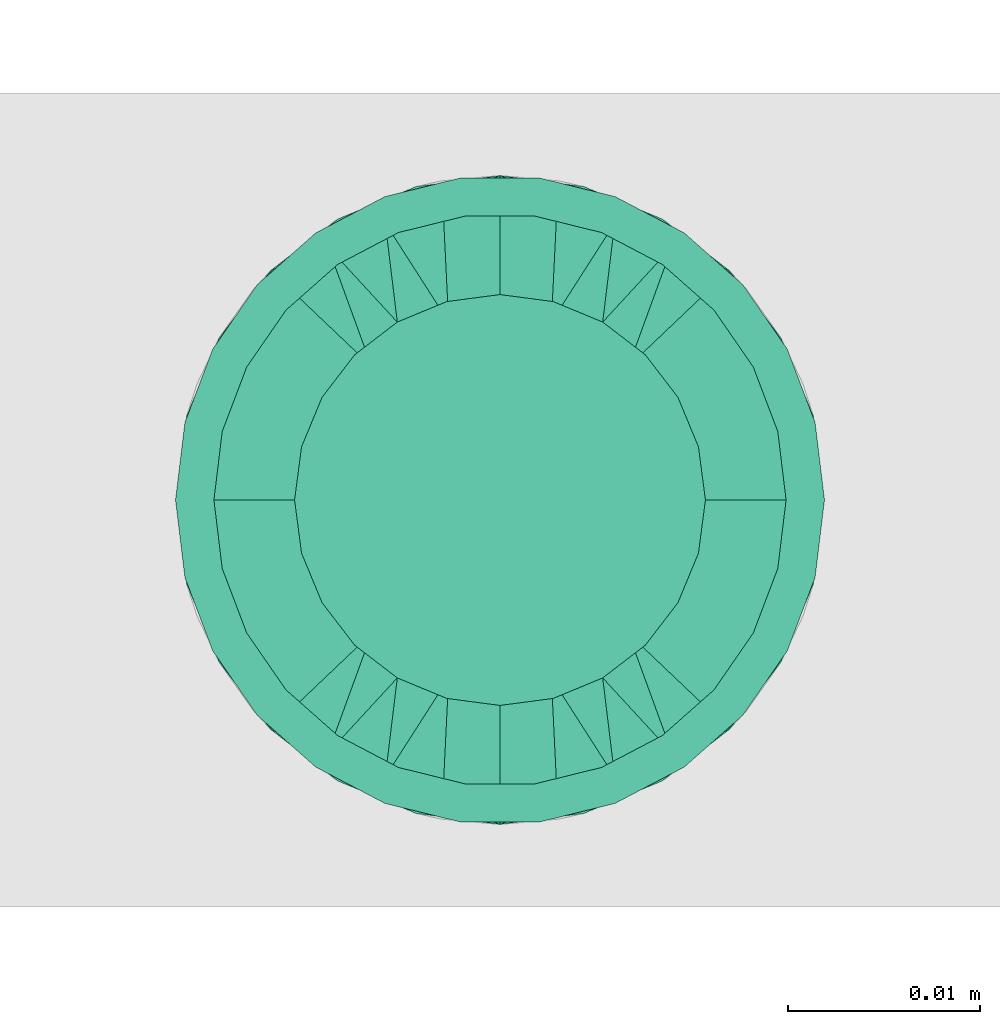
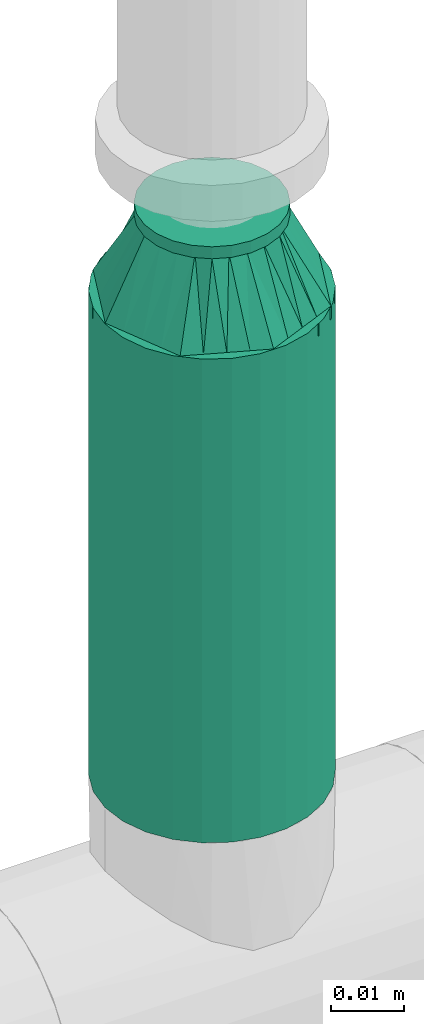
# One storey, part 60 of 94: 1 flow fitting, 1 flow segment.
"""IFC2X3 building model written with IfcOpenShell, lengths in millimetres."""

from ifc_helpers import new_model, entity, si_unit, converted_unit, derived_unit, direction, frame, origin_with_axes, origin_2d_with_axis, place, context, subcontext, project, spatial, hollow_circle, extrude, open_shell, surface_model, source, transform, mapped, type_object, element, save


model = new_model("IFC2X3")

# Units and contexts
model_context = context("Model", 3, precision=0.01, world=frame((0.0, 4.29681676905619e-09, 0.0)), true_north=direction((4.01073788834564e-13, 1.0)))
plan_context = context("Plan", 3, precision=0.01, world=frame((0.0, 4.29681676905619e-09, 0.0)), true_north=direction((4.01073788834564e-13, 1.0)))
body_context = subcontext(model_context, "Body", "Model", "MODEL_VIEW")
ifc_project = project(units=[converted_unit("PLANEANGLEUNIT", "DEGREE", entity("IfcPositiveLengthMeasure", 0.0174532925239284), si_unit("PLANEANGLEUNIT", "RADIAN"), dimensions=[0, 0, 0, 0, 0, 0, 0]), si_unit("AREAUNIT", "SQUARE_METRE"), si_unit("LENGTHUNIT", "METRE", prefix="MILLI"), si_unit("MASSUNIT", "GRAM", prefix="KILO"), si_unit("POWERUNIT", "WATT"), si_unit("PRESSUREUNIT", "PASCAL"), si_unit("FORCEUNIT", "NEWTON", prefix="KILO"), si_unit("ELECTRICCURRENTUNIT", "AMPERE"), si_unit("THERMODYNAMICTEMPERATUREUNIT", "DEGREE_CELSIUS"), si_unit("TIMEUNIT", "SECOND"), si_unit("VOLUMEUNIT", "CUBIC_METRE"), derived_unit("LINEARVELOCITYUNIT", [(si_unit("LENGTHUNIT", "METRE"), 1), (si_unit("TIMEUNIT", "SECOND"), -1)]), derived_unit("VOLUMETRICFLOWRATEUNIT", [(si_unit("VOLUMEUNIT", "CUBIC_METRE"), 1), (si_unit("TIMEUNIT", "SECOND"), -1)]), derived_unit("THERMALTRANSMITTANCEUNIT", [(si_unit("POWERUNIT", "WATT"), 1), (si_unit("THERMODYNAMICTEMPERATUREUNIT", "KELVIN"), -1), (si_unit("AREAUNIT", "SQUARE_METRE"), -1)])], contexts=[model_context, plan_context])

# Site, building, storey
site_placement = place(None, frame((0.0, -4.29681676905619e-09, 0.0), z_axis=(0.0, 0.0, 1.0), x_axis=(1.0, 0.0, 0.0)))
site = spatial("IfcSite", under=ifc_project, at=site_placement, CompositionType="ELEMENT")
building_placement = place(site_placement, frame((0.0, 4.29681676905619e-09, 0.0), z_axis=(0.0, 0.0, 1.0), x_axis=(1.0, 0.0, 0.0)))
building = spatial("IfcBuilding", under=site, at=building_placement, Name="mc-building", CompositionType="ELEMENT")
storey_placement = place(building_placement, frame((0.0, 0.0, 200300.0), z_axis=(0.0, 0.0, 1.0), x_axis=(1.0, 0.0, 0.0)))
storey = spatial("IfcBuildingStorey", under=building, at=storey_placement, Name="Nivå C", CompositionType="ELEMENT", Elevation=200300.0)

# Flow fitting
pipe_fitting_type = type_object("IfcPipeFittingType", Name="magi_pipe_fe_reducer_centric_short_NOR", PredefinedType="TRANSITION")
shared_shape_1 = source(origin_with_axes(), body_context, "Body", "SurfaceModel", [
    surface_model("IfcShellBasedSurfaceModel", [(14.4, 5.35, -9.26647), (14.4, 0.0, -10.7), (14.4, 2.76936, -10.33541), (14.4, 10.33541, -2.76936), (14.4, 7.56604, -7.56604), (14.4, -10.33541, -2.76936), (14.4, 9.26647, -5.35), (14.4, 0.0, 10.7), (14.4, -5.35, -9.26647), (14.4, -2.76936, -10.33541), (14.4, -7.56604, -7.56604), (14.4, -9.26647, -5.35), (14.4, 10.7, 0.0), (14.4, 10.33541, 2.76936), (14.4, 9.26647, 5.35), (14.4, 7.56604, 7.56604), (14.4, 2.76936, 10.33541), (14.4, 5.35, 9.26647), (14.4, -10.33541, 2.76936), (14.4, -7.56604, 7.56604), (14.4, -9.26647, 5.35), (14.4, -10.7, 0.0), (14.4, -2.76936, 10.33541), (14.4, -5.35, 9.26647), (12.4, 2.76936, 10.33541), (12.4, -10.33541, -2.76936), (12.4, 0.0, 10.7), (12.4, 5.35, 9.26647), (12.4, 7.56604, 7.56604), (12.4, 9.26647, 5.35), (12.4, 10.33541, 2.76936), (12.4, -10.33541, 2.76936), (12.4, -2.76936, 10.33541), (12.4, -7.56604, 7.56604), (12.4, -5.35, 9.26647), (12.4, -9.26647, 5.35), (12.4, -10.7, 0.0), (12.4, 10.33541, -2.76936), (12.4, 5.35, -9.26647), (12.4, 9.26647, -5.35), (12.4, 7.56604, -7.56604), (12.4, 2.76936, -10.33541), (12.4, -9.26647, -5.35), (12.4, -5.35, -9.26647), (12.4, -7.56604, -7.56604), (12.4, 0.0, -10.7), (12.4, -2.76936, -10.33541), (12.4, 10.7, 0.0), (-2.0, 11.9501, 11.9501), (-2.0, 0.0, 16.9), (-2.0, 4.37404, 16.32415), (-2.0, 8.45, 14.63583), (-2.0, 14.63583, 8.45), (-2.0, 16.32415, 4.37404), (-2.0, -16.32415, 4.37404), (-2.0, -8.45, 14.63583), (-2.0, -14.63583, 8.45), (-2.0, -11.9501, 11.9501), (-2.0, -4.37404, 16.32415), (-2.0, -16.32415, -4.37404), (-2.0, -16.9, 0.0), (-2.0, -8.45, -14.63583), (-2.0, 16.32415, -4.37404), (-2.0, 11.9501, -11.9501), (-2.0, 14.63583, -8.45), (-2.0, 8.45, -14.63583), (-2.0, 4.37404, -16.32415), (-2.0, 0.0, -16.9), (-2.0, -11.9501, -11.9501), (-2.0, -14.63583, -8.45), (-2.0, -4.37404, -16.32415), (-2.0, 16.9, 0.0), (0.0, 4.37404, -16.32415), (0.0, 8.45, -14.63583), (0.0, 11.9501, -11.9501), (0.0, 0.0, -16.9), (0.0, 16.32415, -4.37404), (0.0, 16.32415, 4.37404), (0.0, 14.63583, -8.45), (0.0, -8.45, -14.63583), (0.0, -4.37404, -16.32415), (0.0, -11.9501, -11.9501), (0.0, -16.32415, -4.37404), (0.0, -14.63583, -8.45), (0.0, -16.32415, 4.37404), (0.0, 16.9, 0.0), (0.0, 14.63583, 8.45), (0.0, 11.9501, 11.9501), (0.0, 4.37404, 16.32415), (0.0, 8.45, 14.63583), (0.0, 0.0, 16.9), (0.0, -14.63583, 8.45), (0.0, -16.9, 0.0), (0.0, -8.45, 14.63583), (0.0, -11.9501, 11.9501), (0.0, -4.37404, 16.32415), (12.4, 9.3625, -2.31662), (0.0, 14.42505, -5.97505), (0.0, 15.66253, -2.98753), (12.4, -6.6875, -6.94985), (0.0, -13.18758, -8.96258), (0.0, 2.98753, -15.66253), (12.4, 0.0, -9.26647), (12.4, 6.6875, -6.94985), (0.0, 8.96258, -13.18758), (12.4, -9.3625, -2.31662), (0.0, -15.66253, -2.98753), (0.0, -14.42505, -5.97505), (0.0, 5.97505, -14.42505), (0.0, -2.98753, -15.66253), (0.0, -8.96258, -13.18758), (0.0, 13.18758, -8.96258), (12.4, 8.025, -4.63324), (12.4, -2.675, -9.26647), (12.4, 2.675, -9.26647), (0.0, -5.97505, -14.42505), (12.4, -8.025, -4.63324), (12.4, -9.3625, 2.31662), (0.0, -14.42505, 5.97505), (0.0, -15.66253, 2.98753), (12.4, 6.6875, 6.94985), (0.0, 13.18758, 8.96258), (0.0, -2.98753, 15.66253), (12.4, 0.0, 9.26647), (12.4, -6.6875, 6.94985), (0.0, -8.96258, 13.18758), (12.4, 9.3625, 2.31662), (0.0, 15.66253, 2.98753), (0.0, 14.42505, 5.97505), (0.0, -5.97505, 14.42505), (0.0, 2.98753, 15.66253), (0.0, 8.96258, 13.18758), (0.0, -13.18758, 8.96258), (12.4, -8.025, 4.63324), (12.4, 2.675, 9.26647), (12.4, -2.675, 9.26647), (0.0, 5.97505, 14.42505), (12.4, 8.025, 4.63324)], [open_shell([[[0, 1, 2]], [[3, 0, 4]], [[5, 0, 3]], [[3, 4, 6]], [[7, 5, 3]], [[1, 8, 9]], [[1, 0, 8]], [[10, 5, 11]], [[5, 10, 8]], [[0, 5, 8]], [[3, 12, 13]], [[13, 14, 15]], [[13, 15, 16]], [[7, 3, 16]], [[16, 15, 17]], [[7, 18, 5]], [[18, 19, 20]], [[21, 5, 18]], [[19, 22, 23]], [[22, 19, 18]], [[7, 22, 18]], [[13, 16, 3]], [[24, 25, 26]], [[27, 25, 24]], [[28, 29, 30]], [[28, 25, 27]], [[31, 26, 25]], [[32, 33, 34]], [[33, 32, 31]], [[33, 31, 35]], [[32, 26, 31]], [[31, 25, 36]], [[30, 37, 28]], [[25, 28, 37]], [[38, 37, 39]], [[37, 38, 25]], [[38, 39, 40]], [[41, 25, 38]], [[42, 43, 44]], [[43, 42, 25]], [[43, 45, 46]], [[43, 25, 41]], [[41, 45, 43]], [[37, 30, 47]], [[25, 5, 36]], [[42, 11, 25]], [[8, 44, 43]], [[42, 44, 10]], [[9, 43, 46]], [[25, 11, 5]], [[5, 21, 36]], [[9, 8, 43]], [[10, 44, 8]], [[10, 11, 42]], [[1, 9, 46]], [[46, 45, 1]], [[41, 2, 45]], [[38, 0, 41]], [[6, 40, 39]], [[38, 40, 4]], [[3, 39, 37]], [[38, 4, 0]], [[0, 2, 41]], [[12, 3, 37]], [[6, 39, 3]], [[6, 4, 40]], [[47, 12, 37]], [[45, 2, 1]], [[30, 13, 47]], [[29, 14, 30]], [[17, 28, 27]], [[29, 28, 15]], [[16, 27, 24]], [[30, 14, 13]], [[13, 12, 47]], [[16, 17, 27]], [[15, 28, 17]], [[15, 14, 29]], [[7, 16, 24]], [[24, 26, 7]], [[32, 22, 26]], [[34, 23, 32]], [[20, 33, 35]], [[34, 33, 19]], [[18, 35, 31]], [[34, 19, 23]], [[23, 22, 32]], [[21, 18, 31]], [[20, 35, 18]], [[20, 19, 33]], [[36, 21, 31]], [[26, 22, 7]], [[48, 49, 50]], [[48, 50, 51]], [[48, 52, 53]], [[48, 53, 49]], [[49, 53, 54]], [[55, 56, 57]], [[55, 58, 49]], [[56, 55, 49]], [[49, 54, 56]], [[54, 59, 60]], [[54, 53, 61]], [[53, 62, 63]], [[63, 62, 64]], [[63, 65, 66]], [[61, 53, 63]], [[67, 63, 66]], [[59, 68, 69]], [[68, 59, 61]], [[61, 67, 70]], [[59, 54, 61]], [[63, 67, 61]], [[53, 71, 62]], [[72, 73, 74]], [[75, 72, 74]], [[74, 76, 77]], [[76, 74, 78]], [[74, 77, 79]], [[75, 79, 80]], [[75, 74, 79]], [[81, 82, 83]], [[82, 81, 79]], [[79, 84, 82]], [[77, 76, 85]], [[77, 86, 87]], [[77, 87, 88]], [[88, 84, 79]], [[88, 87, 89]], [[84, 88, 90]], [[90, 91, 84]], [[92, 82, 84]], [[91, 93, 94]], [[91, 90, 93]], [[93, 90, 95]], [[79, 77, 88]], [[59, 82, 60]], [[69, 83, 59]], [[79, 68, 61]], [[69, 68, 81]], [[80, 61, 70]], [[59, 83, 82]], [[82, 92, 60]], [[80, 79, 61]], [[81, 68, 79]], [[81, 83, 69]], [[75, 80, 70]], [[70, 67, 75]], [[66, 72, 67]], [[65, 73, 66]], [[78, 63, 64]], [[65, 63, 74]], [[76, 64, 62]], [[65, 74, 73]], [[73, 72, 66]], [[85, 76, 62]], [[78, 64, 76]], [[78, 74, 63]], [[71, 85, 62]], [[67, 72, 75]], [[53, 77, 71]], [[52, 86, 53]], [[89, 48, 51]], [[52, 48, 87]], [[88, 51, 50]], [[53, 86, 77]], [[77, 85, 71]], [[88, 89, 51]], [[87, 48, 89]], [[87, 86, 52]], [[90, 88, 50]], [[50, 49, 90]], [[58, 95, 49]], [[55, 93, 58]], [[91, 57, 56]], [[55, 57, 94]], [[84, 56, 54]], [[55, 94, 93]], [[93, 95, 58]], [[92, 84, 54]], [[91, 56, 84]], [[91, 94, 57]], [[60, 92, 54]], [[49, 95, 90]], [[27, 34, 47]], [[47, 34, 43]], [[43, 38, 47]], [[43, 34, 36]], [[90, 87, 94]], [[92, 94, 87]], [[87, 74, 92]], [[75, 92, 74]], [[81, 92, 75]], [[74, 87, 85]], [[96, 97, 98]], [[81, 99, 100]], [[101, 102, 75]], [[98, 85, 47]], [[74, 103, 104]], [[104, 103, 38]], [[105, 106, 107]], [[38, 108, 104]], [[102, 109, 75]], [[110, 99, 81]], [[47, 96, 98]], [[103, 111, 112]], [[109, 102, 113]], [[36, 92, 106]], [[102, 101, 114]], [[110, 115, 43]], [[96, 112, 97]], [[107, 116, 105]], [[36, 106, 105]], [[113, 115, 109]], [[43, 115, 113]], [[116, 107, 100]], [[108, 38, 114]], [[111, 103, 74]], [[111, 97, 112]], [[99, 110, 43]], [[116, 100, 99]], [[101, 108, 114]], [[117, 118, 119]], [[87, 120, 121]], [[122, 123, 90]], [[119, 92, 36]], [[94, 124, 125]], [[125, 124, 34]], [[126, 127, 128]], [[34, 129, 125]], [[123, 130, 90]], [[131, 120, 87]], [[36, 117, 119]], [[124, 132, 133]], [[130, 123, 134]], [[47, 85, 127]], [[123, 122, 135]], [[131, 136, 27]], [[117, 133, 118]], [[128, 137, 126]], [[47, 127, 126]], [[134, 136, 130]], [[27, 136, 134]], [[137, 128, 121]], [[129, 34, 135]], [[132, 124, 94]], [[132, 118, 133]], [[120, 131, 27]], [[137, 121, 120]], [[122, 129, 135]]])]),
])
flow_fitting_placement = place(storey_placement, frame((524502.26879, 416298.62756, 2962.64799999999), z_axis=(0.0, -1.0, 0.0), x_axis=(0.0, 0.0, 1.0)))
element("IfcFlowFitting", 1, at=flow_fitting_placement, inside=storey, type_object=pipe_fitting_type, Name="magi_pipe_fe_reducer_centric_short_NOR", context=body_context, shape_type="MappedRepresentation", body=[
    mapped(shared_shape_1, transform((0.0, 0.0, 0.0), scale=1.0)),
])

# Flow segment
pipe_segment_type = type_object("IfcPipeSegmentType", Name="Stålrør normaltykke", PredefinedType="RIGIDSEGMENT")
shared_shape_2 = source(origin_with_axes(), body_context, "Body", "SweptSolid", [
    extrude(hollow_circle(Radius=16.9, WallThickness=2.0, at=origin_2d_with_axis()), frame((0.0, 0.0, 0.0), z_axis=(1.0, 0.0, 0.0), x_axis=(0.0, 1.0, 0.0)), (0.0, 0.0, 1.0), 80.8),
])
flow_segment_placement = place(storey_placement, frame((524502.26879, 416298.62756, 2881.79999999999), z_axis=(0.0, 1.0, 0.0), x_axis=(0.0, 0.0, 1.0)))
element("IfcFlowSegment", 2, at=flow_segment_placement, inside=storey, type_object=pipe_segment_type, Name="Stålrør normaltykke", context=body_context, shape_type="MappedRepresentation", body=[
    mapped(shared_shape_2, transform((0.0, 0.0, 0.0), scale=1.0)),
])

save(model, "model.ifc")
